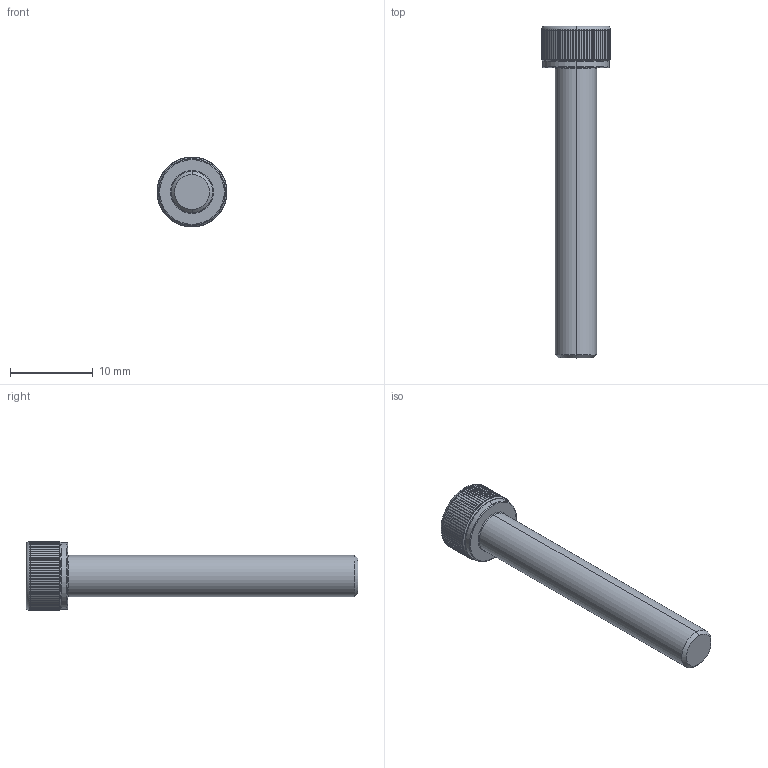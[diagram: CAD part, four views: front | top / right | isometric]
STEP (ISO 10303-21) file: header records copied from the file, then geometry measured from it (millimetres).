
FILE_DESCRIPTION (( 'STEP AP203' ), '1' );
FILE_NAME ('LGDT-304-M5x35.STEP', '2026-08-10T04:00:23', ( '' ), ( '' ), 'SwSTEP 2.0', 'SolidWorks 2020', '' );
FILE_SCHEMA (( 'CONFIG_CONTROL_DESIGN' ));
Length unit declared in the file: millimetre
Products named in the file (1): LGDT-304-M5x35
Bounding box: 8.4 x 40 x 8.4 mm (x, y, z)
Volume: 915.2 mm3; surface area: 818.5 mm2
Topology: 1 solids, 1 shells, 204 faces, 576 edges, 376 vertices
Faces by surface type: cylinder 175, cone 11, plane 10, torus 8
Entity records: 8367 total; most frequent: CARTESIAN_POINT 3208, ORIENTED_EDGE 1152, DIRECTION 988, EDGE_CURVE 576, AXIS2_PLACEMENT_3D 398, VERTEX_POINT 376, EDGE_LOOP 206, ADVANCED_FACE 204
